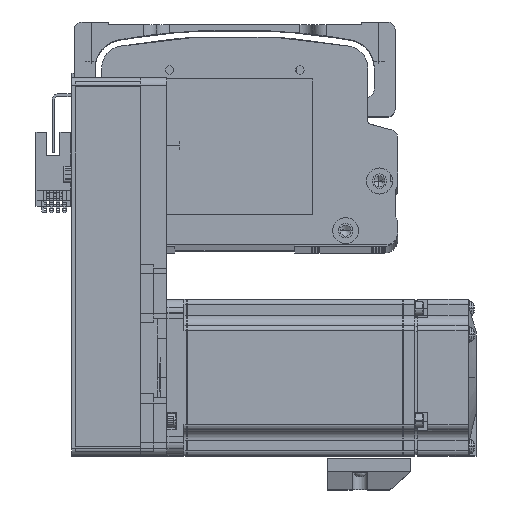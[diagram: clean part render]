
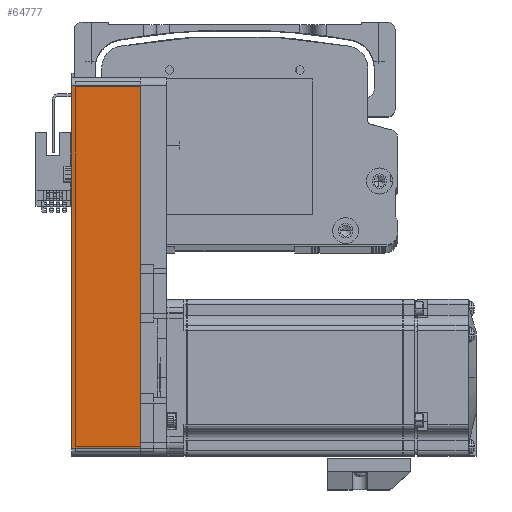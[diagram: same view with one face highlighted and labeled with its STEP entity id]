
A CAD part, top view. The second image highlights one B-rep face of the part: STEP entity #64777.
In plain terms, the highlighted planar face has unit normal (0, 0, 1) as drawn and (0, 1, 0) by its records, which use the part's own axes.
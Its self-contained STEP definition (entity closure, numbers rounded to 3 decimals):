
#1413 = EDGE_LOOP ( 'NONE', ( #39318, #70190, #49352, #39077 ) ) ;
#2694 = LINE ( 'NONE', #54259, #18465 ) ;
#5631 = VECTOR ( 'NONE', #42950, 1000. ) ;
#12283 = VERTEX_POINT ( 'NONE', #66090 ) ;
#13125 = VECTOR ( 'NONE', #40383, 1000. ) ;
#13947 = DIRECTION ( 'NONE',  ( 0., 0., 1. ) ) ;
#14739 = VECTOR ( 'NONE', #51947, 1000. ) ;
#17485 = EDGE_CURVE ( 'NONE', #12283, #79019, #2694, .T. ) ;
#18023 = CARTESIAN_POINT ( 'NONE',  ( 72.5, 30., 26.5 ) ) ;
#18172 = CARTESIAN_POINT ( 'NONE',  ( 72.5, 30., 26.5 ) ) ;
#18465 = VECTOR ( 'NONE', #13947, 1000. ) ;
#19823 = VERTEX_POINT ( 'NONE', #44796 ) ;
#23576 = LINE ( 'NONE', #62973, #5631 ) ;
#24775 = DIRECTION ( 'NONE',  ( 1., 0., 0. ) ) ;
#30480 = CARTESIAN_POINT ( 'NONE',  ( -69.5, 30., 26.5 ) ) ;
#39077 = ORIENTED_EDGE ( 'NONE', *, *, #77834, .T. ) ;
#39318 = ORIENTED_EDGE ( 'NONE', *, *, #73065, .T. ) ;
#40383 = DIRECTION ( 'NONE',  ( 0., 0., -1. ) ) ;
#42950 = DIRECTION ( 'NONE',  ( -1., 0., 0. ) ) ;
#44796 = CARTESIAN_POINT ( 'NONE',  ( 69.5, 30., 26.5 ) ) ;
#47152 = CARTESIAN_POINT ( 'NONE',  ( 69.5, 30., 26.5 ) ) ;
#49297 = EDGE_CURVE ( 'NONE', #19823, #79019, #72714, .T. ) ;
#49352 = ORIENTED_EDGE ( 'NONE', *, *, #49297, .F. ) ;
#49753 = FACE_OUTER_BOUND ( 'NONE', #1413, .T. ) ;
#51947 = DIRECTION ( 'NONE',  ( -1., 0., 0. ) ) ;
#54259 = CARTESIAN_POINT ( 'NONE',  ( -69.5, 30., 26.5 ) ) ;
#58201 = AXIS2_PLACEMENT_3D ( 'NONE', #18023, #65124, #24775 ) ;
#62973 = CARTESIAN_POINT ( 'NONE',  ( 72.5, 30., 0. ) ) ;
#64777 = ADVANCED_FACE ( 'NONE', ( #49753 ), #71603, .F. ) ;
#64896 = VERTEX_POINT ( 'NONE', #80074 ) ;
#65124 = DIRECTION ( 'NONE',  ( 0., -1., 0. ) ) ;
#66090 = CARTESIAN_POINT ( 'NONE',  ( -69.5, 30., 0. ) ) ;
#70190 = ORIENTED_EDGE ( 'NONE', *, *, #17485, .T. ) ;
#71603 = PLANE ( 'NONE',  #58201 ) ;
#72714 = LINE ( 'NONE', #18172, #14739 ) ;
#73065 = EDGE_CURVE ( 'NONE', #64896, #12283, #23576, .T. ) ;
#77834 = EDGE_CURVE ( 'NONE', #19823, #64896, #80538, .T. ) ;
#79019 = VERTEX_POINT ( 'NONE', #30480 ) ;
#80074 = CARTESIAN_POINT ( 'NONE',  ( 69.5, 30., 0. ) ) ;
#80538 = LINE ( 'NONE', #47152, #13125 ) ;
